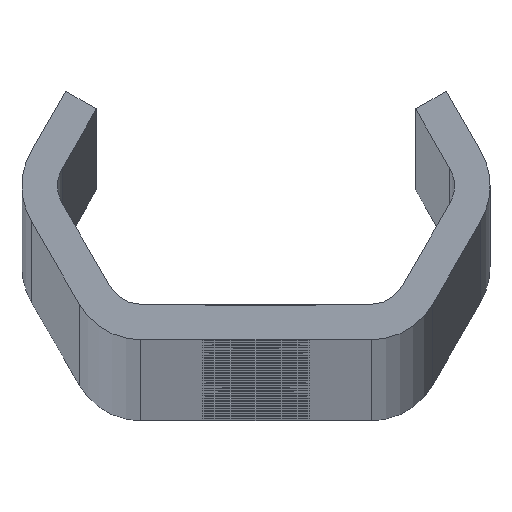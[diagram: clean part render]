
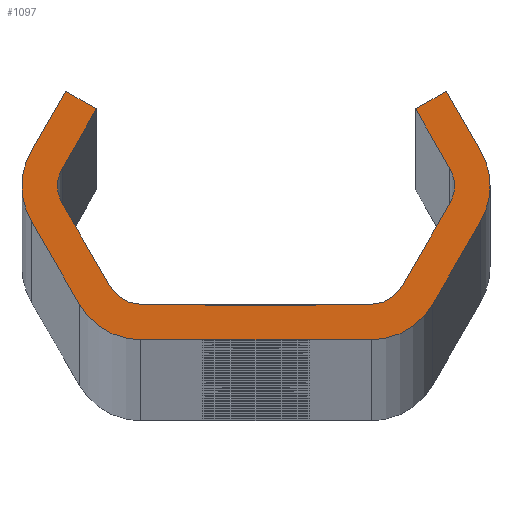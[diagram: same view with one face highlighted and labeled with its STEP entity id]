
A CAD part, top view. The second image highlights one B-rep face of the part: STEP entity #1097.
In plain terms, the highlighted planar face has unit normal (0, 0, 1).
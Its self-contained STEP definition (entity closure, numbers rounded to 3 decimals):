
#1097=ADVANCED_FACE('NONE',(#3087),#3088,.F.);
#3087=FACE_OUTER_BOUND('',#10156,.T.);
#3088=PLANE('',#10157);
#10156=EDGE_LOOP('',(#20754,#20755,#20756,#20757,#20758,#20759,#20760,#20761,#20762,#20763,#20764,#20765,#20766,#20767,#20768,#20769,#20770,#20771,#20772,#20773,#20774,#20775,#20776,#20777,#20778,#20779,#20780,#20781));
#10157=AXIS2_PLACEMENT_3D('',#20782,#20783,#20784);
#20754=ORIENTED_EDGE('',*,*,#27742,.F.);
#20755=ORIENTED_EDGE('',*,*,#27743,.T.);
#20756=ORIENTED_EDGE('',*,*,#27148,.T.);
#20757=ORIENTED_EDGE('',*,*,#27744,.T.);
#20758=ORIENTED_EDGE('',*,*,#27669,.T.);
#20759=ORIENTED_EDGE('',*,*,#27745,.T.);
#20760=ORIENTED_EDGE('',*,*,#26615,.T.);
#20761=ORIENTED_EDGE('',*,*,#27672,.T.);
#20762=ORIENTED_EDGE('',*,*,#27678,.T.);
#20763=ORIENTED_EDGE('',*,*,#27682,.T.);
#20764=ORIENTED_EDGE('',*,*,#27746,.T.);
#20765=ORIENTED_EDGE('',*,*,#27122,.T.);
#20766=ORIENTED_EDGE('',*,*,#27684,.T.);
#20767=ORIENTED_EDGE('',*,*,#27747,.T.);
#20768=ORIENTED_EDGE('',*,*,#27688,.T.);
#20769=ORIENTED_EDGE('',*,*,#27748,.T.);
#20770=ORIENTED_EDGE('',*,*,#27129,.T.);
#20771=ORIENTED_EDGE('',*,*,#27749,.T.);
#20772=ORIENTED_EDGE('',*,*,#26620,.T.);
#20773=ORIENTED_EDGE('',*,*,#27132,.T.);
#20774=ORIENTED_EDGE('',*,*,#27138,.T.);
#20775=ORIENTED_EDGE('',*,*,#27141,.T.);
#20776=ORIENTED_EDGE('',*,*,#27119,.T.);
#20777=ORIENTED_EDGE('',*,*,#27750,.T.);
#20778=ORIENTED_EDGE('',*,*,#27143,.T.);
#20779=ORIENTED_EDGE('',*,*,#27751,.T.);
#20780=ORIENTED_EDGE('',*,*,#27151,.T.);
#20781=ORIENTED_EDGE('',*,*,#27752,.T.);
#20782=CARTESIAN_POINT('',(0.0,0.0,3920.0));
#20783=DIRECTION('',(0.0,0.0,-1.0));
#20784=DIRECTION('',(0.0,-1.0,0.0));
#26615=EDGE_CURVE('NONE',#29637,#29641,#29643,.T.);
#26620=EDGE_CURVE('NONE',#29646,#29650,#29652,.T.);
#27119=EDGE_CURVE('NONE',#30550,#30548,#30551,.T.);
#27122=EDGE_CURVE('NONE',#30554,#30555,#30556,.T.);
#27129=EDGE_CURVE('NONE',#30568,#30566,#30569,.T.);
#27132=EDGE_CURVE('NONE',#29650,#30572,#30573,.T.);
#27138=EDGE_CURVE('NONE',#30572,#30580,#30582,.T.);
#27141=EDGE_CURVE('NONE',#30580,#30550,#30585,.T.);
#27143=EDGE_CURVE('NONE',#30587,#30588,#30589,.T.);
#27148=EDGE_CURVE('NONE',#30596,#30597,#30598,.T.);
#27151=EDGE_CURVE('NONE',#30603,#30601,#30604,.T.);
#27669=EDGE_CURVE('NONE',#31564,#31562,#31565,.T.);
#27672=EDGE_CURVE('NONE',#29641,#31568,#31569,.T.);
#27678=EDGE_CURVE('NONE',#31568,#31576,#31578,.T.);
#27682=EDGE_CURVE('NONE',#31576,#31582,#31584,.T.);
#27684=EDGE_CURVE('NONE',#30555,#31586,#31587,.T.);
#27688=EDGE_CURVE('NONE',#31592,#31593,#31594,.T.);
#27742=EDGE_CURVE('NONE',#31650,#31651,#31652,.T.);
#27743=EDGE_CURVE('NONE',#31650,#30596,#31653,.T.);
#27744=EDGE_CURVE('NONE',#30597,#31564,#31654,.T.);
#27745=EDGE_CURVE('NONE',#31562,#29637,#31655,.T.);
#27746=EDGE_CURVE('NONE',#31582,#30554,#31656,.T.);
#27747=EDGE_CURVE('NONE',#31586,#31592,#31657,.T.);
#27748=EDGE_CURVE('NONE',#31593,#30568,#31658,.T.);
#27749=EDGE_CURVE('NONE',#30566,#29646,#31659,.T.);
#27750=EDGE_CURVE('NONE',#30548,#30587,#31660,.T.);
#27751=EDGE_CURVE('NONE',#30588,#30603,#31661,.T.);
#27752=EDGE_CURVE('NONE',#30601,#31651,#31662,.T.);
#29637=VERTEX_POINT('',#34115);
#29641=VERTEX_POINT('NONE',#34120);
#29643=CIRCLE('',#34123,3.0);
#29646=VERTEX_POINT('',#34126);
#29650=VERTEX_POINT('NONE',#34131);
#29652=CIRCLE('',#34134,6.0);
#30548=VERTEX_POINT('NONE',#39502);
#30550=VERTEX_POINT('NONE',#39505);
#30551=CIRCLE('',#39506,3.0);
#30554=VERTEX_POINT('NONE',#39510);
#30555=VERTEX_POINT('NONE',#39511);
#30556=CIRCLE('',#39512,6.0);
#30566=VERTEX_POINT('NONE',#39525);
#30568=VERTEX_POINT('NONE',#39528);
#30569=LINE('',#39529,#39530);
#30572=VERTEX_POINT('NONE',#39534);
#30573=LINE('',#39535,#39536);
#30580=VERTEX_POINT('NONE',#39546);
#30582=LINE('',#39549,#39550);
#30585=LINE('',#39554,#39555);
#30587=VERTEX_POINT('NONE',#39557);
#30588=VERTEX_POINT('NONE',#39558);
#30589=LINE('',#39559,#39560);
#30596=VERTEX_POINT('NONE',#39570);
#30597=VERTEX_POINT('NONE',#39571);
#30598=LINE('',#39572,#39573);
#30601=VERTEX_POINT('NONE',#39577);
#30603=VERTEX_POINT('NONE',#39580);
#30604=LINE('',#39581,#39582);
#31562=VERTEX_POINT('NONE',#43092);
#31564=VERTEX_POINT('NONE',#43095);
#31565=LINE('',#43096,#43097);
#31568=VERTEX_POINT('NONE',#43101);
#31569=LINE('',#43102,#43103);
#31576=VERTEX_POINT('NONE',#43113);
#31578=LINE('',#43116,#43117);
#31582=VERTEX_POINT('NONE',#43122);
#31584=LINE('',#43125,#43126);
#31586=VERTEX_POINT('NONE',#43128);
#31587=LINE('',#43129,#43130);
#31592=VERTEX_POINT('NONE',#43137);
#31593=VERTEX_POINT('NONE',#43138);
#31594=LINE('',#43139,#43140);
#31650=VERTEX_POINT('NONE',#43199);
#31651=VERTEX_POINT('NONE',#43200);
#31652=LINE('',#43201,#43202);
#31653=LINE('',#43203,#43204);
#31654=CIRCLE('',#43205,3.0);
#31655=CIRCLE('',#43206,3.0);
#31656=CIRCLE('',#43207,6.0);
#31657=CIRCLE('',#43208,6.0);
#31658=CIRCLE('',#43209,6.0);
#31659=CIRCLE('',#43210,6.0);
#31660=CIRCLE('',#43211,3.0);
#31661=CIRCLE('',#43212,3.0);
#31662=LINE('',#43213,#43214);
#34115=CARTESIAN_POINT('',(-16.764,0.,3920.0));
#34120=CARTESIAN_POINT('',(-16.362,1.5,3920.0));
#34123=AXIS2_PLACEMENT_3D('',#51385,#51386,#51387);
#34126=CARTESIAN_POINT('',(19.764,0.,3920.0));
#34131=CARTESIAN_POINT('',(18.96,3.,3920.0));
#34134=AXIS2_PLACEMENT_3D('',#51393,#51394,#51395);
#39502=CARTESIAN_POINT('',(16.764,0.,3920.0));
#39505=CARTESIAN_POINT('',(16.362,1.5,3920.0));
#39506=AXIS2_PLACEMENT_3D('',#51892,#51893,#51894);
#39510=CARTESIAN_POINT('',(-19.764,0.,3920.0));
#39511=CARTESIAN_POINT('',(-18.96,-3.,3920.0));
#39512=AXIS2_PLACEMENT_3D('',#51896,#51897,#51898);
#39525=CARTESIAN_POINT('',(18.96,-3.,3920.0));
#39528=CARTESIAN_POINT('',(14.919,-10.,3920.0));
#39529=CARTESIAN_POINT('',(20.692,0.,3920.0));
#39530=VECTOR('',#51906,1000.0);
#39534=CARTESIAN_POINT('',(16.074,8.,3920.0));
#39535=CARTESIAN_POINT('',(16.074,8.,3920.0));
#39536=VECTOR('',#51908,1000.0);
#39546=CARTESIAN_POINT('',(13.475,6.5,3920.0));
#39549=CARTESIAN_POINT('',(13.475,6.5,3920.0));
#39550=VECTOR('',#51913,1000.0);
#39554=CARTESIAN_POINT('',(17.228,0.,3920.0));
#39555=VECTOR('',#51915,1000.0);
#39557=CARTESIAN_POINT('',(16.362,-1.5,3920.0));
#39558=CARTESIAN_POINT('',(12.321,-8.5,3920.0));
#39559=CARTESIAN_POINT('',(11.455,-10.0,3920.0));
#39560=VECTOR('',#51916,1000.0);
#39570=CARTESIAN_POINT('',(-4.063,-10.0,3920.0));
#39571=CARTESIAN_POINT('',(-9.723,-10.0,3920.0));
#39572=CARTESIAN_POINT('',(-11.455,-10.0,3920.0));
#39573=VECTOR('',#51920,1000.0);
#39577=CARTESIAN_POINT('',(-3.458,-10.0,3920.0));
#39580=CARTESIAN_POINT('',(9.723,-10.0,3920.0));
#39581=CARTESIAN_POINT('',(-11.455,-10.0,3920.0));
#39582=VECTOR('',#51923,1000.0);
#43092=CARTESIAN_POINT('',(-16.362,-1.5,3920.0));
#43095=CARTESIAN_POINT('',(-12.321,-8.5,3920.0));
#43096=CARTESIAN_POINT('',(-17.228,0.,3920.0));
#43097=VECTOR('',#52487,1000.0);
#43101=CARTESIAN_POINT('',(-13.475,6.5,3920.0));
#43102=CARTESIAN_POINT('',(-13.475,6.5,3920.0));
#43103=VECTOR('',#52489,1000.0);
#43113=CARTESIAN_POINT('',(-16.074,8.,3920.0));
#43116=CARTESIAN_POINT('',(-13.475,6.5,3920.0));
#43117=VECTOR('',#52494,1000.0);
#43122=CARTESIAN_POINT('',(-18.96,3.,3920.0));
#43125=CARTESIAN_POINT('',(-16.074,8.,3920.0));
#43126=VECTOR('',#52497,1000.0);
#43128=CARTESIAN_POINT('',(-14.919,-10.,3920.0));
#43129=CARTESIAN_POINT('',(-20.692,0.,3920.0));
#43130=VECTOR('',#52498,1000.0);
#43137=CARTESIAN_POINT('',(-9.723,-13.0,3920.0));
#43138=CARTESIAN_POINT('',(9.723,-13.0,3920.0));
#43139=CARTESIAN_POINT('',(-13.187,-13.0,3920.0));
#43140=VECTOR('',#52501,1000.0);
#43199=CARTESIAN_POINT('',(-4.063,-10.1,3920.0));
#43200=CARTESIAN_POINT('',(-3.458,-10.1,3920.0));
#43201=CARTESIAN_POINT('',(0.0,-10.1,3920.0));
#43202=VECTOR('',#52652,1000.0);
#43203=CARTESIAN_POINT('',(-4.063,0.,3920.0));
#43204=VECTOR('',#52653,1000.0);
#43205=AXIS2_PLACEMENT_3D('',#52654,#52655,#52656);
#43206=AXIS2_PLACEMENT_3D('',#52657,#52658,#52659);
#43207=AXIS2_PLACEMENT_3D('',#52660,#52661,#52662);
#43208=AXIS2_PLACEMENT_3D('',#52663,#52664,#52665);
#43209=AXIS2_PLACEMENT_3D('',#52666,#52667,#52668);
#43210=AXIS2_PLACEMENT_3D('',#52669,#52670,#52671);
#43211=AXIS2_PLACEMENT_3D('',#52672,#52673,#52674);
#43212=AXIS2_PLACEMENT_3D('',#52675,#52676,#52677);
#43213=CARTESIAN_POINT('',(-3.458,0.,3920.0));
#43214=VECTOR('',#52678,1000.0);
#51385=CARTESIAN_POINT('',(-13.764,0.,3920.0));
#51386=DIRECTION('',(0.0,0.0,-1.0));
#51387=DIRECTION('',(-1.0,0.0,0.0));
#51393=CARTESIAN_POINT('',(13.764,0.,3920.0));
#51394=DIRECTION('',(0.0,0.0,1.0));
#51395=DIRECTION('',(-1.0,0.0,0.0));
#51892=CARTESIAN_POINT('',(13.764,0.,3920.0));
#51893=DIRECTION('',(0.0,0.0,-1.0));
#51894=DIRECTION('',(-1.0,0.0,0.0));
#51896=CARTESIAN_POINT('',(-13.764,0.,3920.0));
#51897=DIRECTION('',(0.0,0.0,1.0));
#51898=DIRECTION('',(-1.0,0.0,0.0));
#51906=DIRECTION('',(0.5,0.866,-0.0));
#51908=DIRECTION('',(-0.5,0.866,-0.0));
#51913=DIRECTION('',(-0.866,-0.5,-0.0));
#51915=DIRECTION('',(0.5,-0.866,-0.0));
#51916=DIRECTION('',(-0.5,-0.866,-0.0));
#51920=DIRECTION('',(-1.0,0.,-0.0));
#51923=DIRECTION('',(-1.0,0.,-0.0));
#52487=DIRECTION('',(-0.5,0.866,-0.0));
#52489=DIRECTION('',(0.5,0.866,-0.0));
#52494=DIRECTION('',(-0.866,0.5,0.0));
#52497=DIRECTION('',(-0.5,-0.866,0.0));
#52498=DIRECTION('',(0.5,-0.866,0.0));
#52501=DIRECTION('',(1.0,0.0,0.0));
#52652=DIRECTION('',(1.0,0.0,0.0));
#52653=DIRECTION('',(0.,1.0,0.0));
#52654=CARTESIAN_POINT('',(-9.723,-7.0,3920.0));
#52655=DIRECTION('',(0.0,0.0,-1.0));
#52656=DIRECTION('',(-1.0,0.0,0.0));
#52657=CARTESIAN_POINT('',(-13.764,0.,3920.0));
#52658=DIRECTION('',(0.0,0.0,-1.0));
#52659=DIRECTION('',(-1.0,0.0,0.0));
#52660=CARTESIAN_POINT('',(-13.764,0.,3920.0));
#52661=DIRECTION('',(0.0,0.0,1.0));
#52662=DIRECTION('',(-1.0,0.,0.0));
#52663=CARTESIAN_POINT('',(-9.723,-7.0,3920.0));
#52664=DIRECTION('',(0.0,0.0,1.0));
#52665=DIRECTION('',(-1.0,0.0,0.0));
#52666=CARTESIAN_POINT('',(9.723,-7.0,3920.0));
#52667=DIRECTION('',(0.0,0.0,1.0));
#52668=DIRECTION('',(-1.0,0.,0.0));
#52669=CARTESIAN_POINT('',(13.764,0.,3920.0));
#52670=DIRECTION('',(0.0,0.0,1.0));
#52671=DIRECTION('',(-1.0,0.0,0.0));
#52672=CARTESIAN_POINT('',(13.764,0.,3920.0));
#52673=DIRECTION('',(0.0,0.0,-1.0));
#52674=DIRECTION('',(-1.0,0.0,0.0));
#52675=CARTESIAN_POINT('',(9.723,-7.0,3920.0));
#52676=DIRECTION('',(0.0,0.0,-1.0));
#52677=DIRECTION('',(-1.0,0.0,0.0));
#52678=DIRECTION('',(0.,-1.0,0.0));
